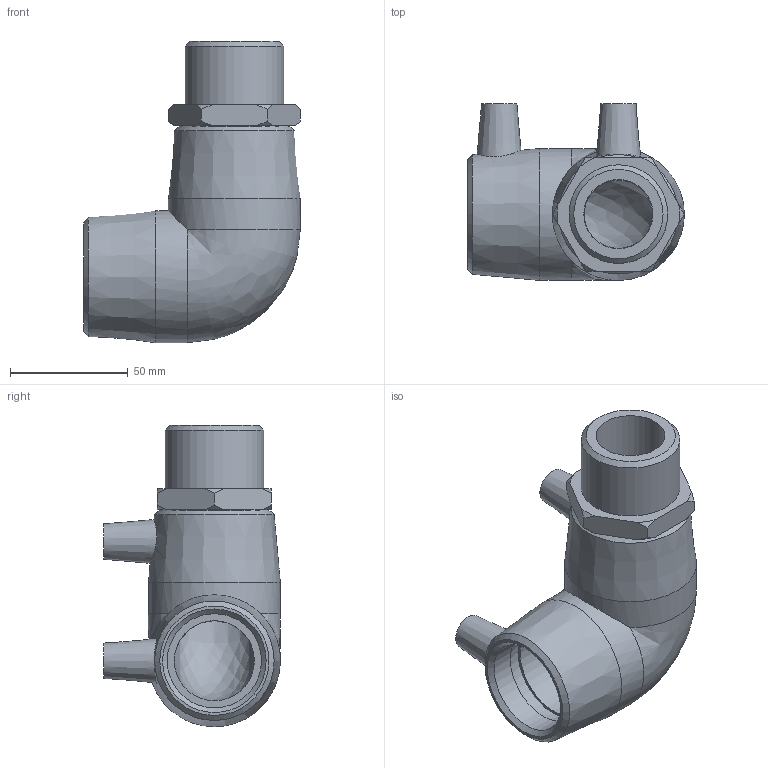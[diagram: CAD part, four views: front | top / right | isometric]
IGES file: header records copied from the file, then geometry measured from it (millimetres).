
Global section: file name: 492504040013.ipt; native system: Autodesk Inventor 2015; preprocessor: unknown; author: KIM; date: 20200202.122341; units: millimetre
Bounding box: 92 x 75 x 128 mm (x, y, z)
Volume: 203804.5 mm3; surface area: 50320.8 mm2
Topology: 1 solids, 2 shells, 59 faces, 143 edges, 96 vertices
Faces by surface type: plane 22, cone 19, revolution 10, cylinder 7, bspline 1
Full cylindrical faces by diameter (mm): 4 x2, 40 x2, 41.91 x1, 56 x2
